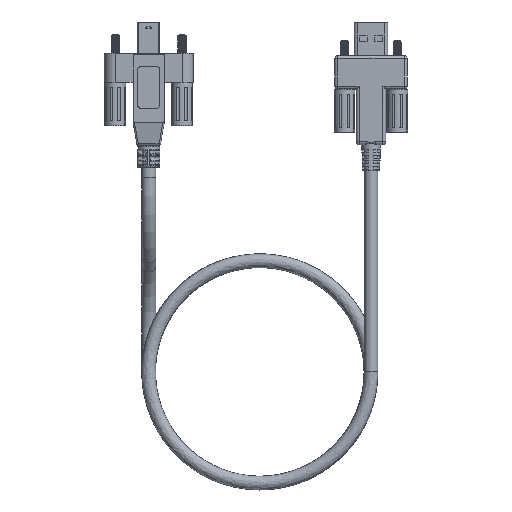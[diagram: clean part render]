
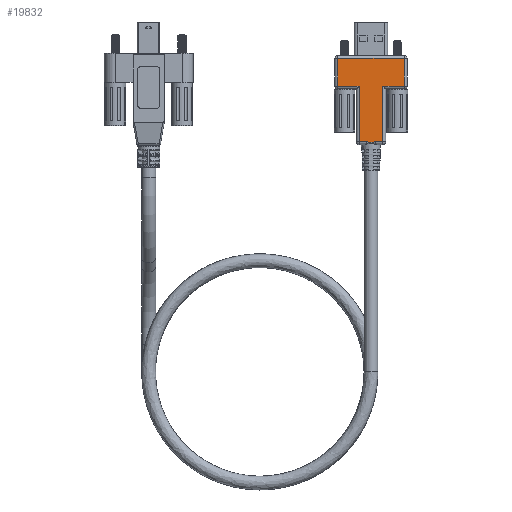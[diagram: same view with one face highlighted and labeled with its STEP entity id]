
A CAD part, front view. The second image highlights one B-rep face of the part: STEP entity #19832.
In plain terms, the highlighted planar face has unit normal (0, -1, 0).
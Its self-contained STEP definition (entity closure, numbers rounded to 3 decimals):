
#299=B_SPLINE_CURVE_WITH_KNOTS('',3,(#30478,#30479,#30480,#30481,#30482,
#30483,#30484,#30485,#30486,#30487,#30488,#30489,#30490,#30491,#30492,#30493,
#30494,#30495,#30496,#30497,#30498,#30499,#30500,#30501,#30502,#30503,#30504,
#30505,#30506,#30507,#30508,#30509,#30510,#30511,#30512,#30513,#30514,#30515,
#30516,#30517,#30518,#30519,#30520,#30521,#30522,#30523,#30524,#30525,#30526),
 .UNSPECIFIED.,.F.,.F.,(4,3,3,3,3,3,3,3,3,3,3,3,3,3,3,3,4),(0.,0.,
0.,0.001,0.001,0.001,
0.001,0.002,0.002,0.002,
0.002,0.003,0.003,0.003,
0.003,0.003,0.003),
 .UNSPECIFIED.);
#1110=PLANE('',#21206);
#1808=FACE_OUTER_BOUND('',#3061,.T.);
#3061=EDGE_LOOP('',(#13638,#13639,#13640,#13641,#13642,#13643,#13644,#13645,
#13646,#13647));
#4467=LINE('',#30471,#6071);
#4468=LINE('',#30474,#6072);
#4469=LINE('',#30476,#6073);
#4470=LINE('',#30528,#6074);
#4471=LINE('',#30530,#6075);
#4472=LINE('',#30532,#6076);
#4473=LINE('',#30534,#6077);
#4474=LINE('',#30536,#6078);
#4475=LINE('',#30537,#6079);
#6071=VECTOR('',#23485,10.);
#6072=VECTOR('',#23488,10.);
#6073=VECTOR('',#23489,1.66);
#6074=VECTOR('',#23490,1.66);
#6075=VECTOR('',#23491,10.);
#6076=VECTOR('',#23492,10.);
#6077=VECTOR('',#23493,10.);
#6078=VECTOR('',#23494,10.);
#6079=VECTOR('',#23495,10.);
#8511=VERTEX_POINT('',#30461);
#8513=VERTEX_POINT('',#30467);
#8515=VERTEX_POINT('',#30473);
#8516=VERTEX_POINT('',#30475);
#8517=VERTEX_POINT('',#30477);
#8518=VERTEX_POINT('',#30527);
#8519=VERTEX_POINT('',#30529);
#8520=VERTEX_POINT('',#30531);
#8521=VERTEX_POINT('',#30533);
#8522=VERTEX_POINT('',#30535);
#10501=EDGE_CURVE('',#8511,#8513,#4467,.T.);
#10502=EDGE_CURVE('',#8513,#8515,#4468,.T.);
#10503=EDGE_CURVE('',#8511,#8516,#4469,.F.);
#10504=EDGE_CURVE('',#8516,#8517,#299,.T.);
#10505=EDGE_CURVE('',#8518,#8517,#4470,.T.);
#10506=EDGE_CURVE('',#8519,#8518,#4471,.T.);
#10507=EDGE_CURVE('',#8520,#8519,#4472,.T.);
#10508=EDGE_CURVE('',#8521,#8520,#4473,.T.);
#10509=EDGE_CURVE('',#8522,#8521,#4474,.T.);
#10510=EDGE_CURVE('',#8515,#8522,#4475,.T.);
#13638=ORIENTED_EDGE('',*,*,#10502,.F.);
#13639=ORIENTED_EDGE('',*,*,#10501,.F.);
#13640=ORIENTED_EDGE('',*,*,#10503,.T.);
#13641=ORIENTED_EDGE('',*,*,#10504,.T.);
#13642=ORIENTED_EDGE('',*,*,#10505,.F.);
#13643=ORIENTED_EDGE('',*,*,#10506,.F.);
#13644=ORIENTED_EDGE('',*,*,#10507,.F.);
#13645=ORIENTED_EDGE('',*,*,#10508,.F.);
#13646=ORIENTED_EDGE('',*,*,#10509,.F.);
#13647=ORIENTED_EDGE('',*,*,#10510,.F.);
#19832=ADVANCED_FACE('',(#1808),#1110,.T.);
#21206=AXIS2_PLACEMENT_3D('',#30472,#23486,#23487);
#23485=DIRECTION('',(0.,0.,1.));
#23486=DIRECTION('center_axis',(0.,-1.,0.));
#23487=DIRECTION('ref_axis',(1.,0.,0.));
#23488=DIRECTION('',(-1.,0.,0.));
#23489=DIRECTION('',(-1.,0.,0.));
#23490=DIRECTION('',(-1.,0.,0.));
#23491=DIRECTION('',(0.,0.,-1.));
#23492=DIRECTION('',(-1.,0.,0.));
#23493=DIRECTION('',(0.,0.,-1.));
#23494=DIRECTION('',(1.,0.,0.));
#23495=DIRECTION('',(0.,0.,1.));
#30461=CARTESIAN_POINT('',(35.707,-3.556,82.794));
#30467=CARTESIAN_POINT('',(35.707,-3.556,102.782));
#30471=CARTESIAN_POINT('',(35.707,-3.556,97.78));
#30472=CARTESIAN_POINT('Origin',(47.493,-3.556,113.782));
#30473=CARTESIAN_POINT('',(28.,-3.556,102.782));
#30474=CARTESIAN_POINT('',(43.747,-3.556,102.782));
#30475=CARTESIAN_POINT('',(38.315,-3.556,82.794));
#30476=CARTESIAN_POINT('',(38.315,-3.556,82.794));
#30477=CARTESIAN_POINT('',(41.685,-3.556,82.794));
#30478=CARTESIAN_POINT('Ctrl Pts',(38.315,-3.556,82.794));
#30479=CARTESIAN_POINT('Ctrl Pts',(38.441,-3.556,82.794));
#30480=CARTESIAN_POINT('Ctrl Pts',(38.567,-3.556,82.787));
#30481=CARTESIAN_POINT('Ctrl Pts',(38.692,-3.556,82.776));
#30482=CARTESIAN_POINT('Ctrl Pts',(38.707,-3.556,82.775));
#30483=CARTESIAN_POINT('Ctrl Pts',(38.723,-3.556,82.773));
#30484=CARTESIAN_POINT('Ctrl Pts',(38.738,-3.556,82.772));
#30485=CARTESIAN_POINT('Ctrl Pts',(38.879,-3.556,82.758));
#30486=CARTESIAN_POINT('Ctrl Pts',(39.019,-3.556,82.741));
#30487=CARTESIAN_POINT('Ctrl Pts',(39.159,-3.556,82.723));
#30488=CARTESIAN_POINT('Ctrl Pts',(39.159,-3.556,82.723));
#30489=CARTESIAN_POINT('Ctrl Pts',(39.159,-3.556,82.723));
#30490=CARTESIAN_POINT('Ctrl Pts',(39.159,-3.556,82.723));
#30491=CARTESIAN_POINT('Ctrl Pts',(39.299,-3.556,82.706));
#30492=CARTESIAN_POINT('Ctrl Pts',(39.439,-3.556,82.689));
#30493=CARTESIAN_POINT('Ctrl Pts',(39.58,-3.556,82.677));
#30494=CARTESIAN_POINT('Ctrl Pts',(39.58,-3.556,82.677));
#30495=CARTESIAN_POINT('Ctrl Pts',(39.58,-3.556,82.677));
#30496=CARTESIAN_POINT('Ctrl Pts',(39.58,-3.556,82.677));
#30497=CARTESIAN_POINT('Ctrl Pts',(39.721,-3.556,82.665));
#30498=CARTESIAN_POINT('Ctrl Pts',(39.862,-3.556,82.658));
#30499=CARTESIAN_POINT('Ctrl Pts',(40.003,-3.556,82.658));
#30500=CARTESIAN_POINT('Ctrl Pts',(40.003,-3.556,82.658));
#30501=CARTESIAN_POINT('Ctrl Pts',(40.003,-3.556,82.658));
#30502=CARTESIAN_POINT('Ctrl Pts',(40.004,-3.556,82.658));
#30503=CARTESIAN_POINT('Ctrl Pts',(40.144,-3.556,82.658));
#30504=CARTESIAN_POINT('Ctrl Pts',(40.284,-3.556,82.665));
#30505=CARTESIAN_POINT('Ctrl Pts',(40.424,-3.556,82.677));
#30506=CARTESIAN_POINT('Ctrl Pts',(40.425,-3.556,82.677));
#30507=CARTESIAN_POINT('Ctrl Pts',(40.425,-3.556,82.677));
#30508=CARTESIAN_POINT('Ctrl Pts',(40.425,-3.556,82.677));
#30509=CARTESIAN_POINT('Ctrl Pts',(40.565,-3.556,82.689));
#30510=CARTESIAN_POINT('Ctrl Pts',(40.705,-3.556,82.706));
#30511=CARTESIAN_POINT('Ctrl Pts',(40.844,-3.556,82.724));
#30512=CARTESIAN_POINT('Ctrl Pts',(40.844,-3.556,82.724));
#30513=CARTESIAN_POINT('Ctrl Pts',(40.845,-3.556,82.724));
#30514=CARTESIAN_POINT('Ctrl Pts',(40.845,-3.556,82.724));
#30515=CARTESIAN_POINT('Ctrl Pts',(40.972,-3.556,82.74));
#30516=CARTESIAN_POINT('Ctrl Pts',(41.099,-3.556,82.755));
#30517=CARTESIAN_POINT('Ctrl Pts',(41.226,-3.556,82.768));
#30518=CARTESIAN_POINT('Ctrl Pts',(41.239,-3.556,82.769));
#30519=CARTESIAN_POINT('Ctrl Pts',(41.252,-3.556,82.771));
#30520=CARTESIAN_POINT('Ctrl Pts',(41.265,-3.556,82.772));
#30521=CARTESIAN_POINT('Ctrl Pts',(41.36,-3.556,82.781));
#30522=CARTESIAN_POINT('Ctrl Pts',(41.456,-3.556,82.788));
#30523=CARTESIAN_POINT('Ctrl Pts',(41.552,-3.556,82.791));
#30524=CARTESIAN_POINT('Ctrl Pts',(41.596,-3.556,82.793));
#30525=CARTESIAN_POINT('Ctrl Pts',(41.64,-3.556,82.794));
#30526=CARTESIAN_POINT('Ctrl Pts',(41.685,-3.556,82.794));
#30527=CARTESIAN_POINT('',(44.293,-3.556,82.794));
#30528=CARTESIAN_POINT('',(43.345,-3.556,82.794));
#30529=CARTESIAN_POINT('',(44.293,-3.556,102.782));
#30530=CARTESIAN_POINT('',(44.293,-3.556,97.78));
#30531=CARTESIAN_POINT('',(52.,-3.556,102.782));
#30532=CARTESIAN_POINT('',(43.747,-3.556,102.782));
#30533=CARTESIAN_POINT('',(52.,-3.556,112.782));
#30534=CARTESIAN_POINT('',(52.,-3.556,113.782));
#30535=CARTESIAN_POINT('',(28.,-3.556,112.782));
#30536=CARTESIAN_POINT('',(40.,-3.556,112.782));
#30537=CARTESIAN_POINT('',(28.,-3.556,113.782));
